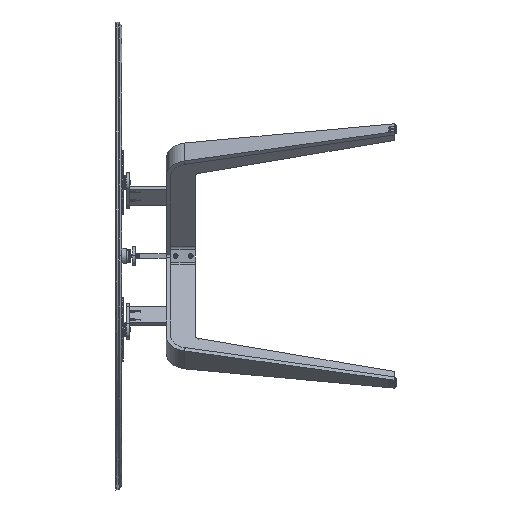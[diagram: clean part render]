
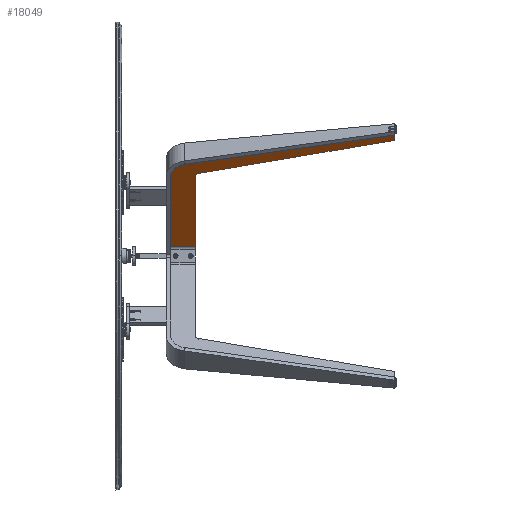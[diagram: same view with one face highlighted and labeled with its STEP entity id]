
A CAD part, left-side view. The second image highlights one B-rep face of the part: STEP entity #18049.
In plain terms, the highlighted planar face has unit normal (-0.731, 0, -0.682) as drawn and (0, 0, 1) by its records, which use the part's own axes.
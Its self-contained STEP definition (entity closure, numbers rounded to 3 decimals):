
#838 = VERTEX_POINT ( 'NONE', #4087 ) ;
#1804 = DIRECTION ( 'NONE',  ( 0., 0., 1. ) ) ;
#2023 = EDGE_CURVE ( 'NONE', #31502, #26358, #17845, .T. ) ;
#2823 = PLANE ( 'NONE',  #33381 ) ;
#2953 = CARTESIAN_POINT ( 'NONE',  ( -41.5, 0., 5. ) ) ;
#3620 = VECTOR ( 'NONE', #4171, 1000. ) ;
#3621 = EDGE_LOOP ( 'NONE', ( #17830, #32161, #23385, #29946, #29146, #14987, #19981, #19146 ) ) ;
#3778 = VECTOR ( 'NONE', #17541, 1000. ) ;
#4087 = CARTESIAN_POINT ( 'NONE',  ( -12.15, 0., 5. ) ) ;
#4171 = DIRECTION ( 'NONE',  ( 0.225, -0.974, 0. ) ) ;
#4210 = LINE ( 'NONE', #20692, #31913 ) ;
#4235 = CARTESIAN_POINT ( 'NONE',  ( -171.815, 520., 5. ) ) ;
#4791 = CARTESIAN_POINT ( 'NONE',  ( -145.834, 550., 5. ) ) ;
#4993 = DIRECTION ( 'NONE',  ( -0.156, 0.988, 0. ) ) ;
#5103 = DIRECTION ( 'NONE',  ( -1., 0., 0. ) ) ;
#5516 = LINE ( 'NONE', #34447, #17018 ) ;
#6842 = CARTESIAN_POINT ( 'NONE',  ( -500., 530., 5. ) ) ;
#7299 = CARTESIAN_POINT ( 'NONE',  ( -430.011, 596., 5. ) ) ;
#7822 = VERTEX_POINT ( 'NONE', #10784 ) ;
#7912 = CARTESIAN_POINT ( 'NONE',  ( -145.834, 596., 5. ) ) ;
#8391 = CARTESIAN_POINT ( 'NONE',  ( -430.011, 530., 5. ) ) ;
#9497 = LINE ( 'NONE', #6842, #3778 ) ;
#10104 = VECTOR ( 'NONE', #10181, 1000. ) ;
#10181 = DIRECTION ( 'NONE',  ( 0., -1., 0. ) ) ;
#10185 = EDGE_CURVE ( 'NONE', #26358, #838, #4210, .T. ) ;
#10631 = CIRCLE ( 'NONE', #20666, 46. ) ;
#10784 = CARTESIAN_POINT ( 'NONE',  ( -171.815, 530., 5. ) ) ;
#10953 = EDGE_CURVE ( 'NONE', #23834, #29821, #29100, .T. ) ;
#12918 = CARTESIAN_POINT ( 'NONE',  ( -100.401, 557.196, 5. ) ) ;
#13542 = DIRECTION ( 'NONE',  ( 0., 0., 1. ) ) ;
#13626 = VECTOR ( 'NONE', #5103, 1000. ) ;
#14732 = EDGE_CURVE ( 'NONE', #17989, #23834, #18425, .T. ) ;
#14948 = DIRECTION ( 'NONE',  ( -1., 0., 0. ) ) ;
#14987 = ORIENTED_EDGE ( 'NONE', *, *, #10185, .T. ) ;
#15191 = VERTEX_POINT ( 'NONE', #12918 ) ;
#16325 = EDGE_CURVE ( 'NONE', #838, #15191, #5516, .T. ) ;
#17018 = VECTOR ( 'NONE', #4993, 1000. ) ;
#17541 = DIRECTION ( 'NONE',  ( 1., 0., 0. ) ) ;
#17830 = ORIENTED_EDGE ( 'NONE', *, *, #14732, .T. ) ;
#17845 = LINE ( 'NONE', #28191, #3620 ) ;
#17905 = DIRECTION ( 'NONE',  ( 0., 0., -1. ) ) ;
#17989 = VERTEX_POINT ( 'NONE', #7912 ) ;
#18049 = ADVANCED_FACE ( 'NONE', ( #26481 ), #2823, .T. ) ;
#18425 = LINE ( 'NONE', #29112, #13626 ) ;
#18606 = CARTESIAN_POINT ( 'NONE',  ( -145.834, 550., 5. ) ) ;
#19146 = ORIENTED_EDGE ( 'NONE', *, *, #30912, .T. ) ;
#19981 = ORIENTED_EDGE ( 'NONE', *, *, #16325, .T. ) ;
#20666 = AXIS2_PLACEMENT_3D ( 'NONE', #4791, #1804, #22679 ) ;
#20692 = CARTESIAN_POINT ( 'NONE',  ( -41.5, 0., 5. ) ) ;
#21471 = CARTESIAN_POINT ( 'NONE',  ( -162.071, 522.25, 5. ) ) ;
#22622 = DIRECTION ( 'NONE',  ( 1., 0., 0. ) ) ;
#22679 = DIRECTION ( 'NONE',  ( 1., 0., 0. ) ) ;
#22767 = EDGE_CURVE ( 'NONE', #7822, #31502, #32030, .T. ) ;
#23385 = ORIENTED_EDGE ( 'NONE', *, *, #28973, .T. ) ;
#23834 = VERTEX_POINT ( 'NONE', #7299 ) ;
#24203 = DIRECTION ( 'NONE',  ( 1., 0., 0. ) ) ;
#26358 = VERTEX_POINT ( 'NONE', #2953 ) ;
#26413 = AXIS2_PLACEMENT_3D ( 'NONE', #4235, #17905, #14948 ) ;
#26481 = FACE_OUTER_BOUND ( 'NONE', #3621, .T. ) ;
#28191 = CARTESIAN_POINT ( 'NONE',  ( -162.071, 522.25, 5. ) ) ;
#28973 = EDGE_CURVE ( 'NONE', #29821, #7822, #9497, .T. ) ;
#29100 = LINE ( 'NONE', #29274, #10104 ) ;
#29112 = CARTESIAN_POINT ( 'NONE',  ( -145.834, 596., 5. ) ) ;
#29146 = ORIENTED_EDGE ( 'NONE', *, *, #2023, .T. ) ;
#29274 = CARTESIAN_POINT ( 'NONE',  ( -430.011, 550., 5. ) ) ;
#29821 = VERTEX_POINT ( 'NONE', #8391 ) ;
#29946 = ORIENTED_EDGE ( 'NONE', *, *, #22767, .T. ) ;
#30912 = EDGE_CURVE ( 'NONE', #15191, #17989, #10631, .T. ) ;
#31502 = VERTEX_POINT ( 'NONE', #21471 ) ;
#31913 = VECTOR ( 'NONE', #22622, 1000. ) ;
#32030 = CIRCLE ( 'NONE', #26413, 10. ) ;
#32161 = ORIENTED_EDGE ( 'NONE', *, *, #10953, .T. ) ;
#33381 = AXIS2_PLACEMENT_3D ( 'NONE', #18606, #13542, #24203 ) ;
#34447 = CARTESIAN_POINT ( 'NONE',  ( -100.401, 557.196, 5. ) ) ;
